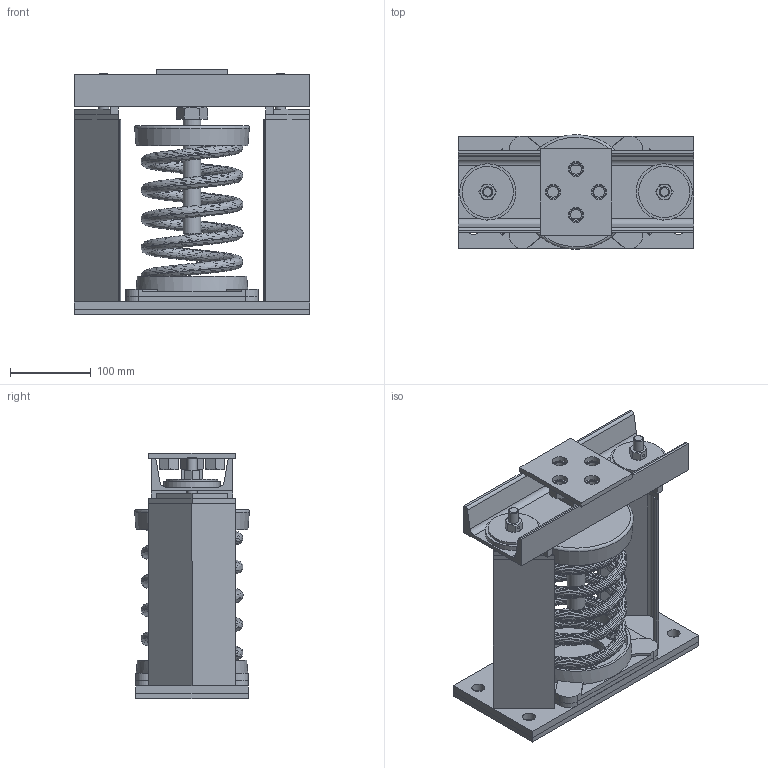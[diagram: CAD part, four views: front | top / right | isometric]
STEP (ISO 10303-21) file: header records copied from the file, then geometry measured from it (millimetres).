
FILE_DESCRIPTION(/* description */ (''),/* implementation_level */ '2;1');
FILE_NAME(/* name */ 'C:\001_Work\Designs\SLR-100 SERIES\SLR 100 SERIES (STOCK MOUNTS)\SLR 110, 111, 132, 150-153\SLR-132.stp',/* time_stamp */ '2016-01-19T09:59:31-05:00',/* author */ ('rramoutar'),/* organization */ ('Mason Industries Inc.'),/* preprocessor_version */ 'ST-DEVELOPER v15.6',/* originating_system */ 'Autodesk Inventor 2015',/* authorisation */ '');
FILE_SCHEMA (('CONFIG_CONTROL_DESIGN'));
Length unit declared in the file: inch
Products named in the file (1): SLR-132 PER A-21748-2
Bounding box: 292.1 x 142.25 x 304.8 mm (x, y, z)
Volume: 2216187.1 mm3; surface area: 868907.8 mm2
Topology: 36 solids, 36 shells, 572 faces, 1328 edges, 844 vertices
Faces by surface type: plane 308, cone 160, cylinder 73, bspline 22, torus 9
Full cylindrical faces by diameter (mm): 9.525 x2, 10.592 x2, 12.7 x7, 13.386 x8, 15.875 x8, 17.462 x4, 19.05 x4, 22.225 x2, 34.925 x2, 41.275 x4, 63.5 x2, 69.85 x2, 76.2 x2, 129.381 x2
Entity records: 25238 total; most frequent: CARTESIAN_POINT 12819, ORIENTED_EDGE 2422, DIRECTION 2296, EDGE_CURVE 1211, AXIS2_PLACEMENT_3D 892, VERTEX_POINT 807, EDGE_LOOP 738, STYLED_ITEM 608
